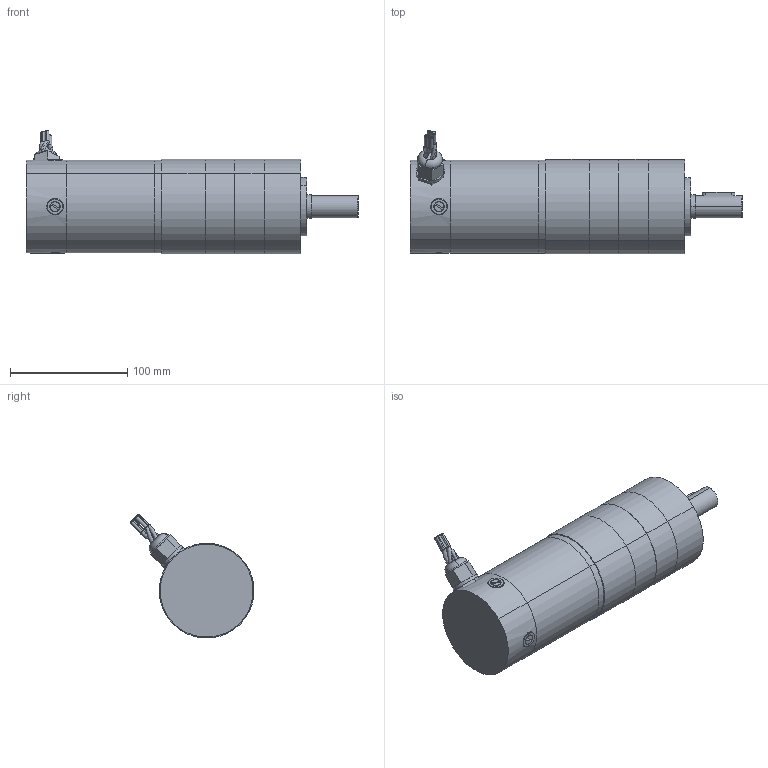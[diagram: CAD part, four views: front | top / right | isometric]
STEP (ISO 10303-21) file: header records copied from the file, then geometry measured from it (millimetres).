
FILE_DESCRIPTION (( 'STEP AP203' ), '1' );
FILE_NAME ('d33455agp2.step', '2018-12-07T19:30:25', ( '' ), ( '' ), 'SwSTEP 2.0', 'SolidWorks 2017', '' );
FILE_SCHEMA (( 'CONFIG_CONTROL_DESIGN' ));
Length unit declared in the file: inch
Products named in the file (1): d33455agp2
Bounding box: 283.35 x 105.69 x 105.69 mm (x, y, z)
Volume: 1218088.6 mm3; surface area: 158877.7 mm2
Topology: 21 solids, 21 shells, 493 faces, 1072 edges, 653 vertices
Faces by surface type: plane 220, cylinder 177, cone 49, torus 31, bspline 8, sphere 8
Entity records: 14426 total; most frequent: CARTESIAN_POINT 3321, DIRECTION 2533, ORIENTED_EDGE 2112, EDGE_CURVE 1056, AXIS2_PLACEMENT_3D 1037, VERTEX_POINT 653, EDGE_LOOP 561, CIRCLE 551
